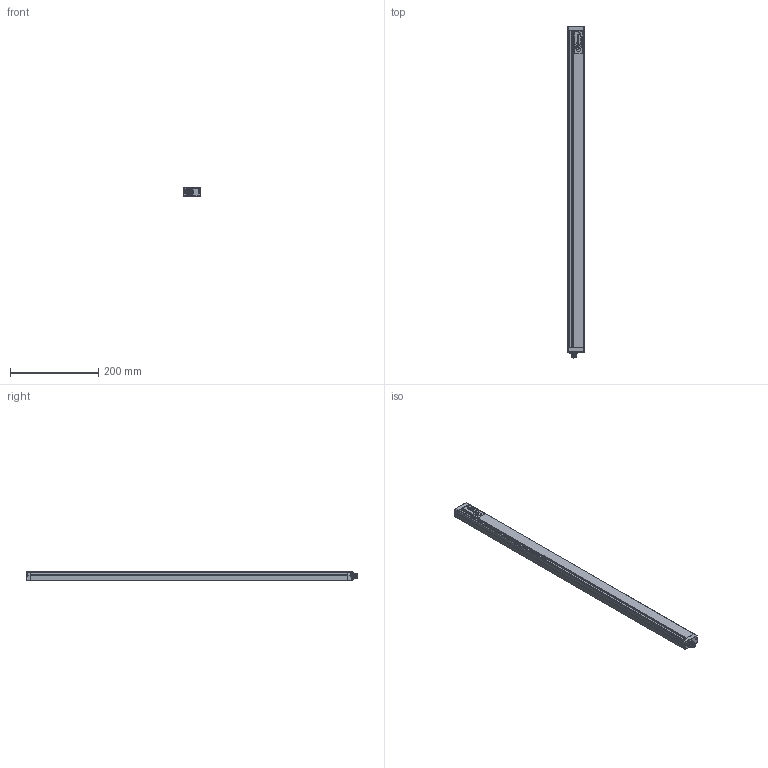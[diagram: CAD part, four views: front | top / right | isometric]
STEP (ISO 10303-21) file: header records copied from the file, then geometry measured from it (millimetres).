
FILE_DESCRIPTION(/* description */ (''),/* implementation_level */ '2;1');
FILE_NAME(/* name */ 'C:\Users\andre\SynologyDrive\Optoscan\Libreria Componenti\00 - Barriere\Barriera sorgente\Argo_720_TX.stp',/* time_stamp */ '2021-04-22T10:19:05+02:00',/* author */ ('andre'),/* organization */ (''),/* preprocessor_version */ 'ST-DEVELOPER v18',/* originating_system */ 'Autodesk Inventor 2020',/* authorisation */ '');
FILE_SCHEMA (('AUTOMOTIVE_DESIGN { 1 0 10303 214 3 1 1 }'));
Length unit declared in the file: millimetre
Products named in the file (1): Argo_720_TX
Bounding box: 40.5 x 753.3 x 20.75 mm (x, y, z)
Volume: 151642.2 mm3; surface area: 195764.7 mm2
Topology: 1 solids, 1 shells, 696 faces, 1911 edges, 1225 vertices
Faces by surface type: plane 321, cylinder 195, bspline 94, torus 72, cone 8, sphere 6
Full cylindrical faces by diameter (mm): 1 x4, 2.459 x4, 2.5 x4, 3 x4, 3.5 x4, 5.5 x4, 8 x1, 10.5 x2, 11.75 x9, 15.7 x1, 17.5 x1
Entity records: 30770 total; most frequent: CARTESIAN_POINT 12670, ORIENTED_EDGE 3806, DIRECTION 3415, EDGE_CURVE 1903, VERTEX_POINT 1225, AXIS2_PLACEMENT_3D 1193, LINE 1029, VECTOR 1029
